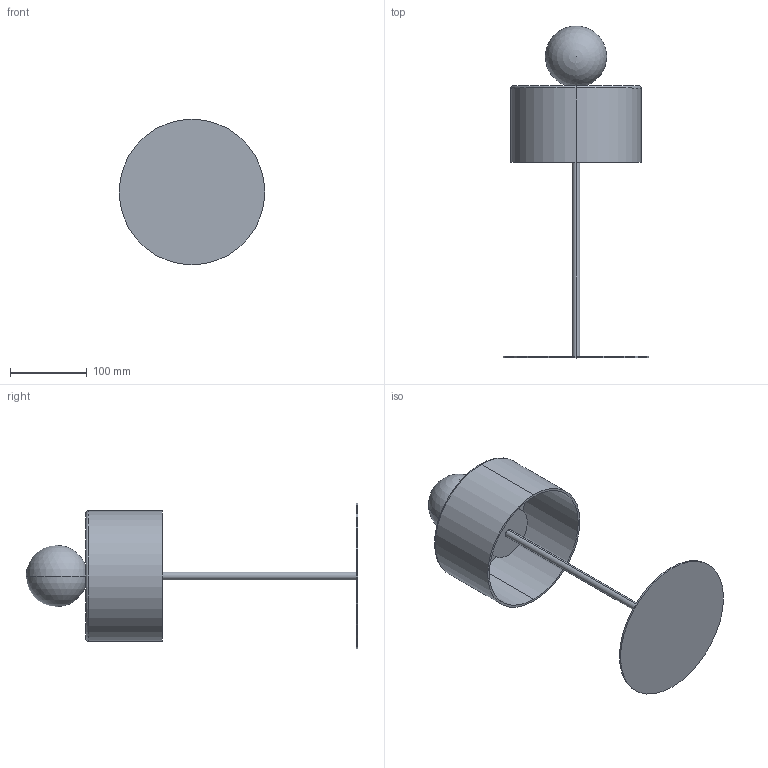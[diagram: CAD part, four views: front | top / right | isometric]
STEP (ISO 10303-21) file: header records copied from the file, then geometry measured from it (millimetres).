
FILE_DESCRIPTION (( 'STEP AP214' ), '1' );
FILE_NAME('CAL010786','',(''),(''),'','','');
FILE_SCHEMA (( 'AUTOMOTIVE_DESIGN' ));
Length unit declared in the file: millimetre
Products named in the file (1): CAL010786_CAL010786_S
Bounding box: 190 x 432.96 x 190 mm (x, y, z)
Volume: 759118.4 mm3; surface area: 254272.1 mm2
Topology: 5 solids, 5 shells, 23 faces, 41 edges, 27 vertices
Faces by surface type: cylinder 10, plane 9, torus 2, sphere 2
Entity records: 595 total; most frequent: DIRECTION 110, CARTESIAN_POINT 84, ORIENTED_EDGE 72, AXIS2_PLACEMENT_3D 50, EDGE_CURVE 36, CIRCLE 26, VERTEX_POINT 24, EDGE_LOOP 24
